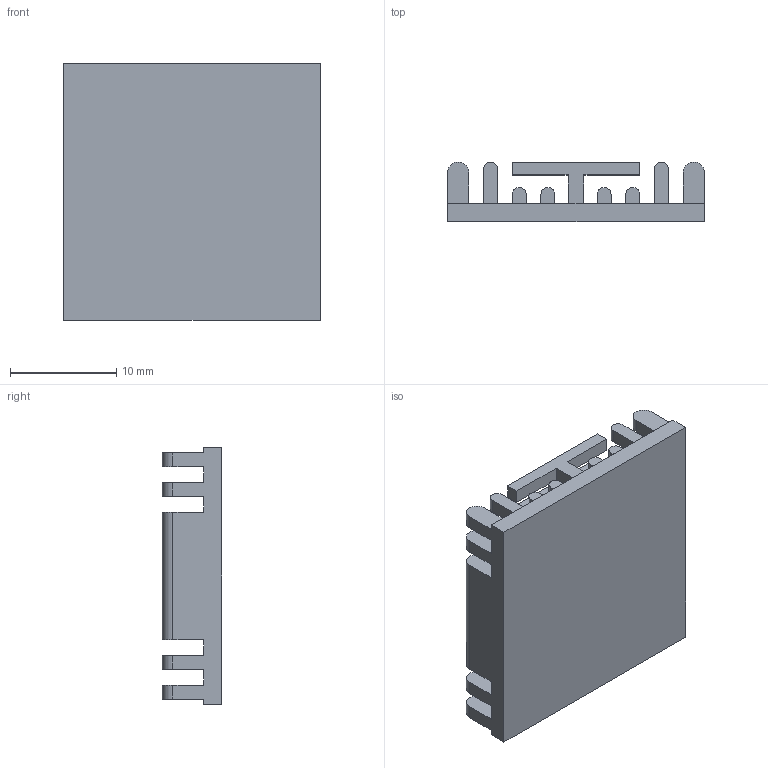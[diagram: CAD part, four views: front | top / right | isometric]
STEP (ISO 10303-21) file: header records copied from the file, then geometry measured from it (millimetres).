
FILE_DESCRIPTION (( 'STEP AP214' ), '1' );
FILE_NAME ('7G-0047A-F.STEP', '2022-07-27T01:09:08', ( '' ), ( '' ), 'SwSTEP 2.0', 'SolidWorks 2016', '' );
FILE_SCHEMA (( 'AUTOMOTIVE_DESIGN' ));
Length unit declared in the file: millimetre
Products named in the file (1): 7G-0047A-F
Bounding box: 24.2 x 5.6 x 24.2 mm (x, y, z)
Volume: 1856.9 mm3; surface area: 2987.9 mm2
Topology: 1 solids, 1 shells, 206 faces, 612 edges, 408 vertices
Faces by surface type: plane 166, cylinder 40
Entity records: 9136 total; most frequent: CARTESIAN_POINT 1227, ORIENTED_EDGE 1224, DIRECTION 1106, EDGE_CURVE 612, LINE 532, VECTOR 532, VERTEX_POINT 408, AXIS2_PLACEMENT_3D 287
